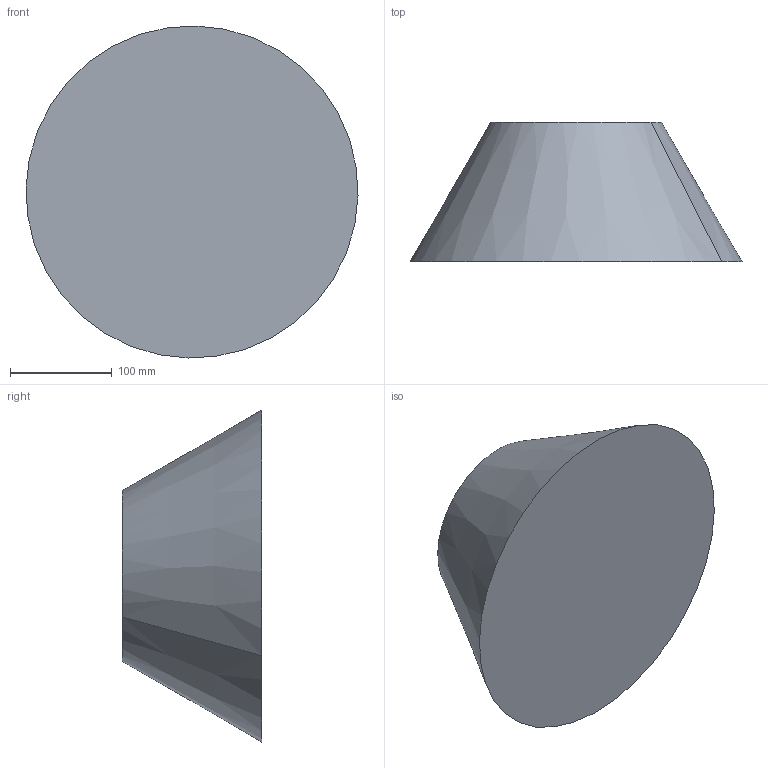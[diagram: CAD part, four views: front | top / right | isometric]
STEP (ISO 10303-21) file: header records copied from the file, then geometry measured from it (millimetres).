
FILE_DESCRIPTION(('CATIA V5 STEP Exchange'),'2;1');
FILE_NAME('C:\_Andres\UNIVERSIDAD\IQS\ASIGNATURAS\DAO\EXF\EXF-16172c\2inicio\Garcia_Granada_Ej09_v37.stp','2017-03-05T22:13:16+00:00',('none'),('none'),'CATIA Version 5-6 Release 2014 SP1 HF18','CATIA V5 STEP AP203','none');
FILE_SCHEMA(('CONFIG_CONTROL_DESIGN'));
Length unit declared in the file: millimetre
Products named in the file (1): Garcia_Granada_Ej09_v37
Bounding box: 325.91 x 137 x 325.91 mm (x, y, z)
Volume: 6775925.5 mm3; surface area: 230490.1 mm2
Topology: 1 solids, 2 shells, 8 faces, 12 edges, 8 vertices
Faces by surface type: plane 4, cone 2, cylinder 2
Entity records: 205 total; most frequent: CARTESIAN_POINT 27, DIRECTION 24, ORIENTED_EDGE 24, AXIS2_PLACEMENT_3D 15, EDGE_CURVE 12, ADVANCED_FACE 8, CIRCLE 8, EDGE_LOOP 8
